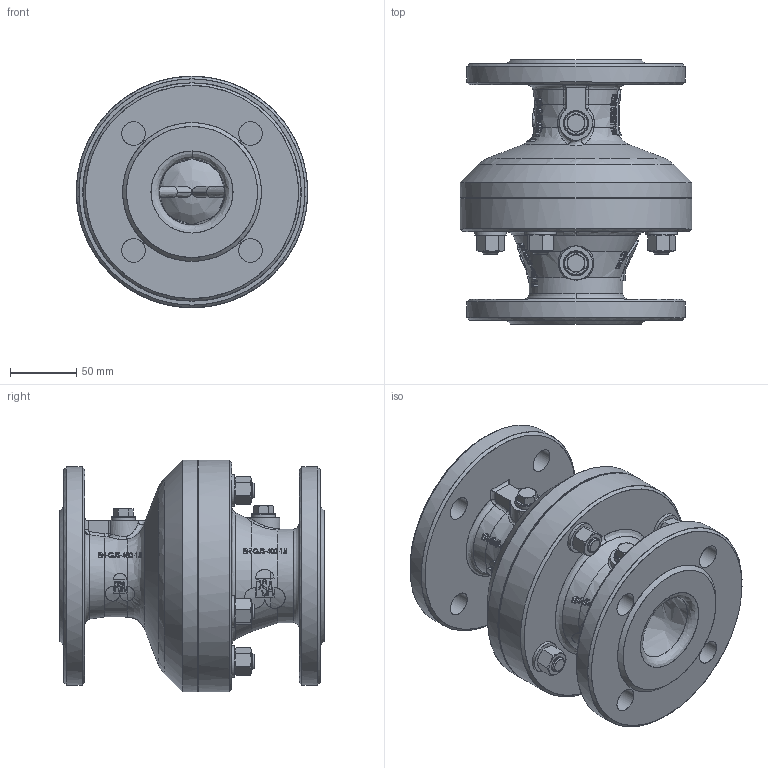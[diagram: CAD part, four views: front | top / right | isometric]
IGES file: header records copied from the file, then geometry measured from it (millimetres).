
Start section: P
Global section: file name: PSA_Hydro-Stop_DN50.igs; native system: By Siemens PLM Incorporated; preprocessor: XPlus GENERIC/IGES 25.1.153; author: Christin-Michelle Fremgen; organization: PSA Wasserarmaturen GmbH; date: 20241009.154250; units: millimetre
Bounding box: 174.98 x 200 x 175 mm (x, y, z)
Surface area: 217319.7 mm2 (no closed solid volume)
Topology: 0 solids, 0 shells, 1310 faces, 7399 edges, 7396 vertices
Faces by surface type: bspline 1310
